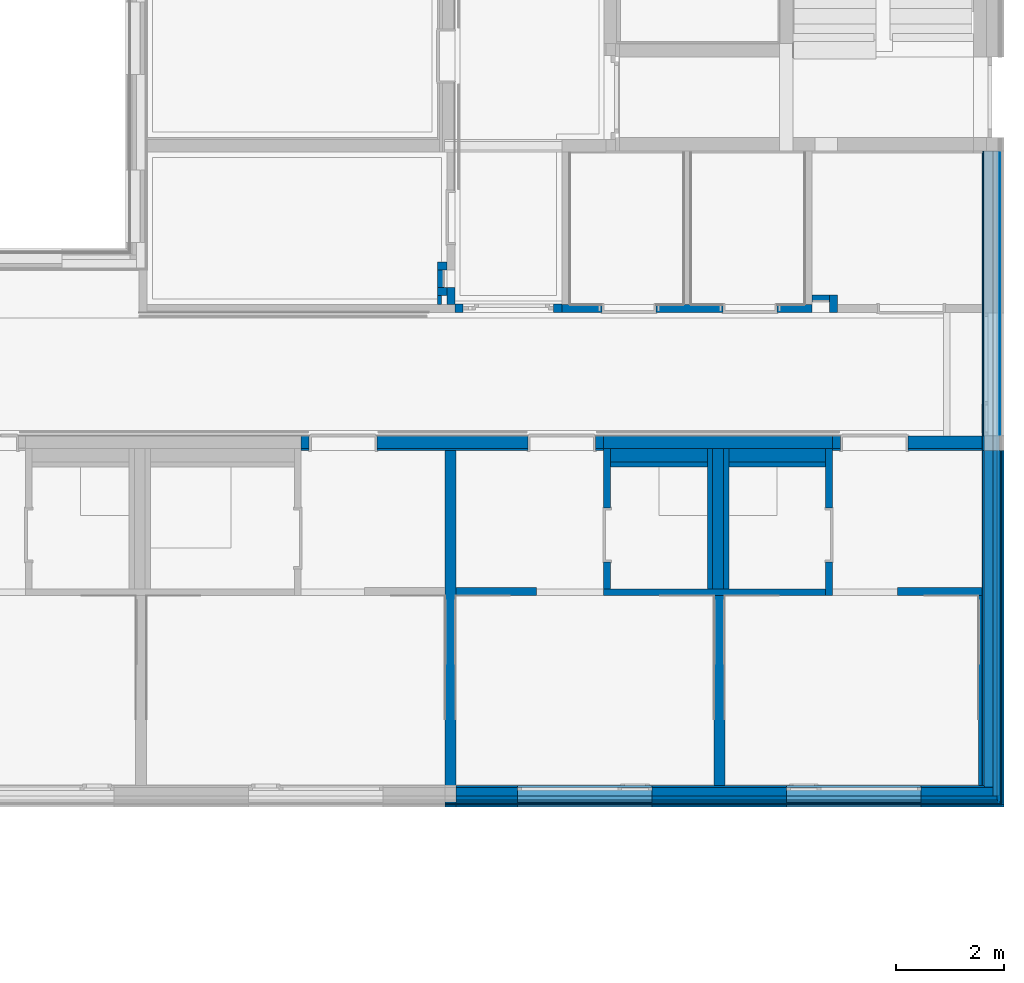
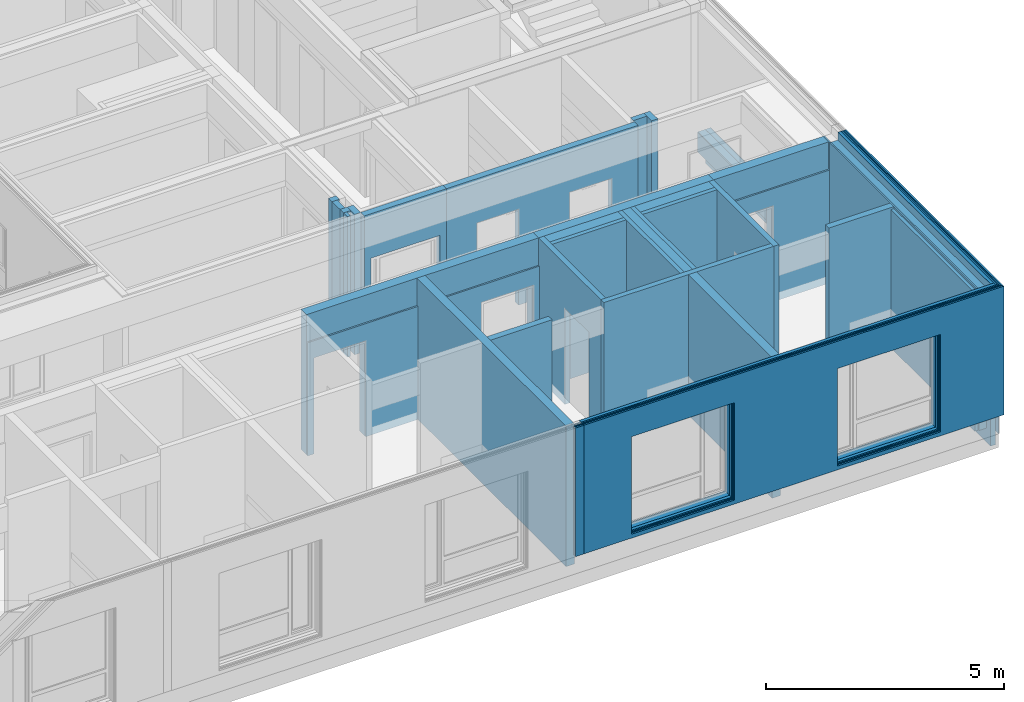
# One storey, part 54 of 207: 51 walls, 25 openings.
"""IFC4 building model written with IfcOpenShell, lengths in metres."""

from ifc_helpers import new_model, entity, si_unit, converted_unit, derived_unit, frame, frame_2d, origin, origin_with_axes, place, context, subcontext, project, spatial, polyline, rectangle, outline, extrude, material, element, save


model = new_model("IFC4")

# Units and contexts
model_context = context("Model", 3, precision=1e-05, world=origin())
body_context = subcontext(model_context, "Body", "Model", "MODEL_VIEW")
ifc_project = project(units=[si_unit("LENGTHUNIT", "METRE"), si_unit("AREAUNIT", "SQUARE_METRE"), si_unit("VOLUMEUNIT", "CUBIC_METRE"), si_unit("MASSUNIT", "GRAM", prefix="KILO"), converted_unit("PLANEANGLEUNIT", "DEGREE", entity("IfcPlaneAngleMeasure", 0.0174532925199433), si_unit("PLANEANGLEUNIT", "RADIAN"), dimensions=[0, 0, 0, 0, 0, 0, 0]), derived_unit("THERMALTRANSMITTANCEUNIT", [(si_unit("POWERUNIT", "WATT"), 1), (si_unit("THERMODYNAMICTEMPERATUREUNIT", "KELVIN"), -1), (si_unit("LENGTHUNIT", "METRE"), -2)]), derived_unit("VOLUMETRICFLOWRATEUNIT", [(si_unit("LENGTHUNIT", "METRE"), 3), (converted_unit("TIMEUNIT", "hour", entity("IfcTimeMeasure", 3600.0), si_unit("TIMEUNIT", "SECOND"), dimensions=[0, 0, 1, 0, 0, 0, 0]), -1), (si_unit("LENGTHUNIT", "METRE"), -1)])], contexts=[model_context])

# Site, building, storey
site_placement = place(None, origin())
site = spatial("IfcSite", under=ifc_project, at=site_placement, Name="Psychiatrie Neubau Wunstorf", CompositionType="ELEMENT")
building_placement = place(site_placement, origin())
building = spatial("IfcBuilding", under=site, at=building_placement, Name="Neubau H2 Stationsgebäude", CompositionType="ELEMENT")
storey_placement = place(building_placement, frame((0.0, 0.0, -0.2)))
storey = spatial("IfcBuildingStorey", under=building, at=storey_placement, Name="H2 Ebene 0", CompositionType="ELEMENT", Elevation=-0.2)

# Walls
ifc_material_1 = material(Name="WA-LB")
wall_1_placement = place(storey_placement, frame((105.889, 5.33250000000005, 0.5), z_axis=(0.0, 0.0, 1.0), x_axis=(0.0, -1.0, 0.0)))
element("IfcWall", 1, at=wall_1_placement, inside=storey, material=ifc_material_1, context=body_context, shape_type="SweptSolid", body=[
    extrude(rectangle(XDim=0.272, YDim=0.036, at=frame_2d((0.136, 0.018), x_axis=(1.0, 0.0))), origin_with_axes(), (0.0, 0.0, 1.0), 3.1),
])
ifc_material_2 = material(Name="WA-KL")
wall_2_placement = place(storey_placement, frame((96.1, -1.47599999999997, 0.5), z_axis=(0.0, 0.0, 1.0), x_axis=(-1.0, 0.0, 0.0)))
element("IfcWall", 2, at=wall_2_placement, inside=storey, material=ifc_material_2, context=body_context, shape_type="SweptSolid", body=[
    extrude(rectangle(XDim=0.2, YDim=0.024, at=frame_2d((0.1, 0.012), x_axis=(1.0, 0.0))), origin_with_axes(), (0.0, 0.0, 1.0), 3.3),
])
ifc_material_3 = material(Name="WA-TL")
wall_3_placement = place(storey_placement, frame((96.1, -1.49999999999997, 0.5), z_axis=(0.0, 0.0, 1.0), x_axis=(-1.0, 0.0, 0.0)))
element("IfcWall", 3, at=wall_3_placement, inside=storey, material=ifc_material_3, context=body_context, shape_type="SweptSolid", body=[
    extrude(rectangle(XDim=0.2, YDim=0.024, at=frame_2d((0.1, 0.012), x_axis=(1.0, 0.0))), origin_with_axes(), (0.0, 0.0, 1.0), 3.3),
])
ifc_material_4 = material(Name="WA-HS")
wall_4_placement = place(storey_placement, frame((96.1, -1.52399999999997, 0.5), z_axis=(0.0, 0.0, 1.0), x_axis=(-1.0, 0.0, 0.0)))
element("IfcWall", 4, at=wall_4_placement, inside=storey, material=ifc_material_4, context=body_context, shape_type="SweptSolid", body=[
    extrude(rectangle(XDim=0.2, YDim=0.042, at=frame_2d((0.1, 0.021), x_axis=(1.0, 0.0))), origin_with_axes(), (0.0, 0.0, 1.0), 3.3),
])

# Wall, openings
ifc_material_5 = material(Name="WA-LB")
wall_5_placement = place(storey_placement, frame((105.925, -1.16399999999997, 0.5), z_axis=(0.0, 0.0, 1.0), x_axis=(-1.0, 0.0, 0.0)))
wall_5 = element("IfcWall", 5, at=wall_5_placement, inside=storey, material=ifc_material_5, context=body_context, shape_type="SweptSolid", body=[
    extrude(rectangle(XDim=9.82500000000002, YDim=0.036, at=frame_2d((4.91250000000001, 0.018), x_axis=(1.0, 0.0))), origin_with_axes(), (0.0, 0.0, 1.0), 3.1),
])
opening_1_placement = place(wall_5_placement, frame((6.17499995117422, 0.0, 0.1), z_axis=(0.0, 1.0, 0.0), x_axis=(0.0, 0.0, 1.0)))
element("IfcOpeningElement", 6, at=opening_1_placement, cuts=wall_5, Name="Fensteröffnung", ObjectType="Opening", context=body_context, shape_type="SweptSolid", body=[
    extrude(outline(polyline([(2.5, 2.5), (2.5, 0.0), (0.0, 0.0), (0.0, 2.5), (2.5, 2.5)])), origin_with_axes(), (0.0, 0.0, 1.0), 0.036),
])
opening_2_placement = place(wall_5_placement, frame((1.17499995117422, 0.0, 0.1), z_axis=(0.0, 1.0, 0.0), x_axis=(0.0, 0.0, 1.0)))
element("IfcOpeningElement", 7, at=opening_2_placement, cuts=wall_5, Name="Fensteröffnung", ObjectType="Opening", context=body_context, shape_type="SweptSolid", body=[
    extrude(outline(polyline([(2.5, 2.5), (2.5, 0.0), (0.0, 0.0), (0.0, 2.5), (2.5, 2.5)])), origin_with_axes(), (0.0, 0.0, 1.0), 0.036),
])

ifc_material_6 = material(Name="WA-HD")
wall_6_placement = place(storey_placement, frame((106.085, -1.19999999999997, 0.5), z_axis=(0.0, 0.0, 1.0), x_axis=(-1.0, 0.0, 0.0)))
wall_6 = element("IfcWall", 8, at=wall_6_placement, inside=storey, material=ifc_material_6, context=body_context, shape_type="SweptSolid", body=[
    extrude(rectangle(XDim=9.98500000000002, YDim=0.16, at=frame_2d((4.99250000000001, 0.08), x_axis=(1.0, 0.0))), origin_with_axes(), (0.0, 0.0, 1.0), 3.1),
])
opening_3_placement = place(wall_6_placement, frame((6.33499995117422, 0.0, 0.1), z_axis=(0.0, 1.0, 0.0), x_axis=(0.0, 0.0, 1.0)))
element("IfcOpeningElement", 9, at=opening_3_placement, cuts=wall_6, Name="Fensteröffnung", ObjectType="Opening", context=body_context, shape_type="SweptSolid", body=[
    extrude(outline(polyline([(2.5, 2.5), (2.5, 0.0), (0.0, 0.0), (0.0, 2.5), (2.5, 2.5)])), origin_with_axes(), (0.0, 0.0, 1.0), 0.16),
])
opening_4_placement = place(wall_6_placement, frame((1.33499995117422, 0.0, 0.1), z_axis=(0.0, 1.0, 0.0), x_axis=(0.0, 0.0, 1.0)))
element("IfcOpeningElement", 10, at=opening_4_placement, cuts=wall_6, Name="Fensteröffnung", ObjectType="Opening", context=body_context, shape_type="SweptSolid", body=[
    extrude(outline(polyline([(2.5, 2.5), (2.5, 0.0), (0.0, 0.0), (0.0, 2.5), (2.5, 2.5)])), origin_with_axes(), (0.0, 0.0, 1.0), 0.16),
])

ifc_material_7 = material(Name="WA-DL")
wall_7_placement = place(storey_placement, frame((106.165, -1.35999999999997, 0.5), z_axis=(0.0, 0.0, 1.0), x_axis=(-1.0, 0.0, 0.0)))
wall_7 = element("IfcWall", 11, at=wall_7_placement, inside=storey, material=ifc_material_7, context=body_context, shape_type="SweptSolid", body=[
    extrude(rectangle(XDim=10.065, YDim=0.08, at=frame_2d((5.03250000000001, 0.04), x_axis=(1.0, 0.0))), origin_with_axes(), (0.0, 0.0, 1.0), 3.3),
])
opening_5_placement = place(wall_7_placement, frame((1.41499995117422, 0.0, 0.1), z_axis=(0.0, 1.0, 0.0), x_axis=(0.0, 0.0, 1.0)))
element("IfcOpeningElement", 12, at=opening_5_placement, cuts=wall_7, Name="Fensteröffnung", ObjectType="Opening", context=body_context, shape_type="SweptSolid", body=[
    extrude(outline(polyline([(2.5, 2.5), (2.5, 0.0), (0.0, 0.0), (0.0, 2.5), (2.5, 2.5)])), origin_with_axes(), (0.0, 0.0, 1.0), 0.08),
])
opening_6_placement = place(wall_7_placement, frame((6.41499995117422, 0.0, 0.1), z_axis=(0.0, 1.0, 0.0), x_axis=(0.0, 0.0, 1.0)))
element("IfcOpeningElement", 13, at=opening_6_placement, cuts=wall_7, Name="Fensteröffnung", ObjectType="Opening", context=body_context, shape_type="SweptSolid", body=[
    extrude(outline(polyline([(2.5, 2.5), (2.5, 0.0), (0.0, 0.0), (0.0, 2.5), (2.5, 2.5)])), origin_with_axes(), (0.0, 0.0, 1.0), 0.08),
])

ifc_material_8 = material(Name="WA-TP")
wall_8_placement = place(storey_placement, frame((106.201, -1.43999999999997, 0.5), z_axis=(0.0, 0.0, 1.0), x_axis=(-1.0, 0.0, 0.0)))
wall_8 = element("IfcWall", 14, at=wall_8_placement, inside=storey, material=ifc_material_8, context=body_context, shape_type="SweptSolid", body=[
    extrude(rectangle(XDim=10.101, YDim=0.036, at=frame_2d((5.05050000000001, 0.018), x_axis=(1.0, 0.0))), origin_with_axes(), (0.0, 0.0, 1.0), 3.3),
])
opening_7_placement = place(wall_8_placement, frame((1.45099995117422, 0.0, 0.1), z_axis=(0.0, 1.0, 0.0), x_axis=(0.0, 0.0, 1.0)))
element("IfcOpeningElement", 15, at=opening_7_placement, cuts=wall_8, Name="Fensteröffnung", ObjectType="Opening", context=body_context, shape_type="SweptSolid", body=[
    extrude(outline(polyline([(2.5, 2.5), (2.5, 0.0), (0.0, 0.0), (0.0, 2.5), (2.5, 2.5)])), origin_with_axes(), (0.0, 0.0, 1.0), 0.036),
])
opening_8_placement = place(wall_8_placement, frame((6.45099995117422, 0.0, 0.1), z_axis=(0.0, 1.0, 0.0), x_axis=(0.0, 0.0, 1.0)))
element("IfcOpeningElement", 16, at=opening_8_placement, cuts=wall_8, Name="Fensteröffnung", ObjectType="Opening", context=body_context, shape_type="SweptSolid", body=[
    extrude(outline(polyline([(2.5, 2.5), (2.5, 0.0), (0.0, 0.0), (0.0, 2.5), (2.5, 2.5)])), origin_with_axes(), (0.0, 0.0, 1.0), 0.036),
])

ifc_material_9 = material(Name="WA-KL")
wall_9_placement = place(storey_placement, frame((106.225, -1.47599999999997, 0.5), z_axis=(0.0, 0.0, 1.0), x_axis=(-1.0, 0.0, 0.0)))
wall_9 = element("IfcWall", 17, at=wall_9_placement, inside=storey, material=ifc_material_9, context=body_context, shape_type="SweptSolid", body=[
    extrude(rectangle(XDim=10.125, YDim=0.024, at=frame_2d((5.06250000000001, 0.012), x_axis=(1.0, 0.0))), origin_with_axes(), (0.0, 0.0, 1.0), 3.3),
])
opening_9_placement = place(wall_9_placement, frame((1.47499995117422, 0.0, 0.1), z_axis=(0.0, 1.0, 0.0), x_axis=(0.0, 0.0, 1.0)))
element("IfcOpeningElement", 18, at=opening_9_placement, cuts=wall_9, Name="Fensteröffnung", ObjectType="Opening", context=body_context, shape_type="SweptSolid", body=[
    extrude(outline(polyline([(2.5, 2.5), (2.5, 0.0), (0.0, 0.0), (0.0, 2.5), (2.5, 2.5)])), origin_with_axes(), (0.0, 0.0, 1.0), 0.024),
])
opening_10_placement = place(wall_9_placement, frame((6.47499995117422, 0.0, 0.1), z_axis=(0.0, 1.0, 0.0), x_axis=(0.0, 0.0, 1.0)))
element("IfcOpeningElement", 19, at=opening_10_placement, cuts=wall_9, Name="Fensteröffnung", ObjectType="Opening", context=body_context, shape_type="SweptSolid", body=[
    extrude(outline(polyline([(2.5, 2.5), (2.5, 0.0), (0.0, 0.0), (0.0, 2.5), (2.5, 2.5)])), origin_with_axes(), (0.0, 0.0, 1.0), 0.024),
])

ifc_material_10 = material(Name="WA-TL")
wall_10_placement = place(storey_placement, frame((106.249, -1.49999999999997, 0.5), z_axis=(0.0, 0.0, 1.0), x_axis=(-1.0, 0.0, 0.0)))
wall_10 = element("IfcWall", 20, at=wall_10_placement, inside=storey, material=ifc_material_10, context=body_context, shape_type="SweptSolid", body=[
    extrude(rectangle(XDim=10.149, YDim=0.024, at=frame_2d((5.07450000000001, 0.012), x_axis=(1.0, 0.0))), origin_with_axes(), (0.0, 0.0, 1.0), 3.3),
])
opening_11_placement = place(wall_10_placement, frame((6.49899995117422, 0.0, 0.1), z_axis=(0.0, 1.0, 0.0), x_axis=(0.0, 0.0, 1.0)))
element("IfcOpeningElement", 21, at=opening_11_placement, cuts=wall_10, Name="Fensteröffnung", ObjectType="Opening", context=body_context, shape_type="SweptSolid", body=[
    extrude(outline(polyline([(2.5, 2.5), (2.5, 0.0), (0.0, 0.0), (0.0, 2.5), (2.5, 2.5)])), origin_with_axes(), (0.0, 0.0, 1.0), 0.024),
])
opening_12_placement = place(wall_10_placement, frame((1.49899995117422, 0.0, 0.1), z_axis=(0.0, 1.0, 0.0), x_axis=(0.0, 0.0, 1.0)))
element("IfcOpeningElement", 22, at=opening_12_placement, cuts=wall_10, Name="Fensteröffnung", ObjectType="Opening", context=body_context, shape_type="SweptSolid", body=[
    extrude(outline(polyline([(2.5, 2.5), (2.5, 0.0), (0.0, 0.0), (0.0, 2.5), (2.5, 2.5)])), origin_with_axes(), (0.0, 0.0, 1.0), 0.024),
])

ifc_material_11 = material(Name="WA-HS")
wall_11_placement = place(storey_placement, frame((106.291, -1.52399999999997, 0.5), z_axis=(0.0, 0.0, 1.0), x_axis=(-1.0, 0.0, 0.0)))
wall_11 = element("IfcWall", 23, at=wall_11_placement, inside=storey, material=ifc_material_11, context=body_context, shape_type="SweptSolid", body=[
    extrude(rectangle(XDim=10.191, YDim=0.042, at=frame_2d((5.09550000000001, 0.021), x_axis=(1.0, 0.0))), origin_with_axes(), (0.0, 0.0, 1.0), 3.3),
])
opening_13_placement = place(wall_11_placement, frame((6.54099995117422, 0.0, 0.1), z_axis=(0.0, 1.0, 0.0), x_axis=(0.0, 0.0, 1.0)))
element("IfcOpeningElement", 24, at=opening_13_placement, cuts=wall_11, Name="Fensteröffnung", ObjectType="Opening", context=body_context, shape_type="SweptSolid", body=[
    extrude(outline(polyline([(2.5, 2.5), (2.5, 0.0), (0.0, 0.0), (0.0, 2.5), (2.5, 2.5)])), origin_with_axes(), (0.0, 0.0, 1.0), 0.042),
])
opening_14_placement = place(wall_11_placement, frame((1.54099995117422, 0.0, 0.1), z_axis=(0.0, 1.0, 0.0), x_axis=(0.0, 0.0, 1.0)))
element("IfcOpeningElement", 25, at=opening_14_placement, cuts=wall_11, Name="Fensteröffnung", ObjectType="Opening", context=body_context, shape_type="SweptSolid", body=[
    extrude(outline(polyline([(2.5, 2.5), (2.5, 0.0), (0.0, 0.0), (0.0, 2.5), (2.5, 2.5)])), origin_with_axes(), (0.0, 0.0, 1.0), 0.042),
])

# Walls
ifc_material_12 = material(Name="WA-LB")
wall_12_placement = place(storey_placement, frame((105.889, 5.06050000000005, 0.5), z_axis=(0.0, 0.0, 1.0), x_axis=(0.0, -1.0, 0.0)))
element("IfcWall", 26, at=wall_12_placement, inside=storey, material=ifc_material_12, context=body_context, shape_type="SweptSolid", body=[
    extrude(rectangle(XDim=6.22450000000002, YDim=0.036, at=frame_2d((3.11225000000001, 0.018), x_axis=(1.0, 0.0))), origin_with_axes(), (0.0, 0.0, 1.0), 3.1),
])
ifc_material_13 = material(Name="WA-HD")
wall_13_placement = place(storey_placement, frame((105.925, 5.06050000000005, 0.5), z_axis=(0.0, 0.0, 1.0), x_axis=(0.0, -1.0, 0.0)))
element("IfcWall", 27, at=wall_13_placement, inside=storey, material=ifc_material_13, context=body_context, shape_type="SweptSolid", body=[
    extrude(rectangle(XDim=6.26050000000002, YDim=0.16, at=frame_2d((3.13025000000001, 0.08), x_axis=(1.0, 0.0))), origin_with_axes(), (0.0, 0.0, 1.0), 3.1),
])
ifc_material_14 = material(Name="WA-DL")
wall_14_placement = place(storey_placement, frame((106.085, 5.06050000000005, 0.5), z_axis=(0.0, 0.0, 1.0), x_axis=(0.0, -1.0, 0.0)))
element("IfcWall", 28, at=wall_14_placement, inside=storey, material=ifc_material_14, context=body_context, shape_type="SweptSolid", body=[
    extrude(rectangle(XDim=6.42050000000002, YDim=0.08, at=frame_2d((3.21025000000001, 0.04), x_axis=(1.0, 0.0))), origin_with_axes(), (0.0, 0.0, 1.0), 3.3),
])
ifc_material_15 = material(Name="WA-TP")
wall_15_placement = place(storey_placement, frame((106.165, 5.06050000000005, 0.5), z_axis=(0.0, 0.0, 1.0), x_axis=(0.0, -1.0, 0.0)))
element("IfcWall", 29, at=wall_15_placement, inside=storey, material=ifc_material_15, context=body_context, shape_type="SweptSolid", body=[
    extrude(rectangle(XDim=6.50050000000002, YDim=0.036, at=frame_2d((3.25025000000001, 0.018), x_axis=(1.0, 0.0))), origin_with_axes(), (0.0, 0.0, 1.0), 3.3),
])
ifc_material_16 = material(Name="WA-KL")
wall_16_placement = place(storey_placement, frame((106.201, 5.06050000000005, 0.5), z_axis=(0.0, 0.0, 1.0), x_axis=(0.0, -1.0, 0.0)))
element("IfcWall", 30, at=wall_16_placement, inside=storey, material=ifc_material_16, context=body_context, shape_type="SweptSolid", body=[
    extrude(rectangle(XDim=6.53650000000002, YDim=0.024, at=frame_2d((3.26825000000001, 0.012), x_axis=(1.0, 0.0))), origin_with_axes(), (0.0, 0.0, 1.0), 3.3),
])
ifc_material_17 = material(Name="WA-TL")
wall_17_placement = place(storey_placement, frame((106.225, 5.06050000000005, 0.5), z_axis=(0.0, 0.0, 1.0), x_axis=(0.0, -1.0, 0.0)))
element("IfcWall", 31, at=wall_17_placement, inside=storey, material=ifc_material_17, context=body_context, shape_type="SweptSolid", body=[
    extrude(rectangle(XDim=6.56050000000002, YDim=0.024, at=frame_2d((3.28025000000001, 0.012), x_axis=(1.0, 0.0))), origin_with_axes(), (0.0, 0.0, 1.0), 3.3),
])
ifc_material_18 = material(Name="WA-HS")
wall_18_placement = place(storey_placement, frame((106.249, 5.06050000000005, 0.5), z_axis=(0.0, 0.0, 1.0), x_axis=(0.0, -1.0, 0.0)))
element("IfcWall", 32, at=wall_18_placement, inside=storey, material=ifc_material_18, context=body_context, shape_type="SweptSolid", body=[
    extrude(rectangle(XDim=6.58450000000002, YDim=0.042, at=frame_2d((3.29225000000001, 0.021), x_axis=(1.0, 0.0))), origin_with_axes(), (0.0, 0.0, 1.0), 3.3),
])
ifc_material_19 = material(Name="WA-LB")
wall_19_placement = place(storey_placement, frame((105.889, 10.6249998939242, 0.0), z_axis=(0.0, 0.0, 1.0), x_axis=(0.0, -1.0, 0.0)))
element("IfcWall", 33, at=wall_19_placement, inside=storey, material=ifc_material_19, context=body_context, shape_type="SweptSolid", body=[
    extrude(rectangle(XDim=11.7889998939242, YDim=0.021, at=frame_2d((5.89449994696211, 0.0105), x_axis=(1.0, 0.0))), origin_with_axes(), (0.0, 0.0, 1.0), 0.5),
])
ifc_material_20 = material(Name="WA-STB")
wall_20_placement = place(storey_placement, frame((105.91, 10.6249998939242, 0.0), z_axis=(0.0, 0.0, 1.0), x_axis=(0.0, -1.0, 0.0)))
element("IfcWall", 34, at=wall_20_placement, inside=storey, material=ifc_material_20, context=body_context, shape_type="SweptSolid", body=[
    extrude(rectangle(XDim=11.8099998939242, YDim=0.175, at=frame_2d((5.90499994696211, 0.0875), x_axis=(1.0, 0.0))), origin_with_axes(), (0.0, 0.0, 1.0), 0.5),
])
ifc_material_21 = material(Name="WA-DE")
wall_21_placement = place(storey_placement, frame((106.085, 10.6249998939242, -0.36), z_axis=(0.0, 0.0, 1.0), x_axis=(0.0, -1.0, 0.0)))
element("IfcWall", 35, at=wall_21_placement, inside=storey, material=ifc_material_21, context=body_context, shape_type="SweptSolid", body=[
    extrude(rectangle(XDim=11.9849998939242, YDim=0.12, at=frame_2d((5.99249994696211, 0.06), x_axis=(1.0, 0.0))), origin_with_axes(), (0.0, 0.0, 1.0), 0.86),
])
ifc_material_22 = material(Name="WA-LB")
wall_22_placement = place(storey_placement, frame((106.205, 10.6249998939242, 0.0), z_axis=(0.0, 0.0, 1.0), x_axis=(0.0, -1.0, 0.0)))
element("IfcWall", 36, at=wall_22_placement, inside=storey, material=ifc_material_22, context=body_context, shape_type="SweptSolid", body=[
    extrude(rectangle(XDim=12.1049998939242, YDim=0.015, at=frame_2d((6.05249994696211, 0.0075), x_axis=(1.0, 0.0))), origin_with_axes(), (0.0, 0.0, 1.0), 0.5),
])

# Wall, openings
ifc_material_23 = material(Name="WI-LB")
wall_23_placement = place(storey_placement, frame((98.075, 7.62499989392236, 0.0)))
wall_23 = element("IfcWall", 37, at=wall_23_placement, inside=storey, material=ifc_material_23, context=body_context, shape_type="SweptSolid", body=[
    extrude(rectangle(XDim=4.65, YDim=0.15, at=frame_2d((2.325, 0.075), x_axis=(1.0, 0.0))), origin_with_axes(), (0.0, 0.0, 1.0), 3.6),
])
opening_15_placement = place(wall_23_placement, frame((4.0, 0.15, 0.0), z_axis=(0.0, -1.0, 0.0), x_axis=(0.0, 0.0, 1.0)))
element("IfcOpeningElement", 38, at=opening_15_placement, cuts=wall_23, Name="Türöffnung", ObjectType="Opening", context=body_context, shape_type="SweptSolid", body=[
    extrude(outline(polyline([(2.46, 1.01), (2.46, 0.0), (0.0, 0.0), (0.0, 1.01), (2.46, 1.01)])), origin_with_axes(), (0.0, 0.0, 1.0), 0.15),
])
opening_16_placement = place(wall_23_placement, frame((1.75, 0.15, 0.0), z_axis=(0.0, -1.0, 0.0), x_axis=(0.0, 0.0, 1.0)))
element("IfcOpeningElement", 39, at=opening_16_placement, cuts=wall_23, Name="Türöffnung", ObjectType="Opening", context=body_context, shape_type="SweptSolid", body=[
    extrude(outline(polyline([(2.46, 1.01), (2.46, 0.0), (0.0, 0.0), (0.0, 1.01), (2.46, 1.01)])), origin_with_axes(), (0.0, 0.0, 1.0), 0.15),
])

# Wall
ifc_material_24 = material(Name="WI-LB")
wall_24_placement = place(storey_placement, frame((102.975, 2.4855, 0.0), z_axis=(0.0, 0.0, 1.0), x_axis=(-1.0, 0.0, 0.0)))
element("IfcWall", 40, at=wall_24_placement, inside=storey, material=ifc_material_24, context=body_context, shape_type="SweptSolid", body=[
    extrude(rectangle(XDim=4.125, YDim=0.125, at=frame_2d((2.0625, 0.0625), x_axis=(1.0, 0.0))), origin_with_axes(), (0.0, 0.0, 1.0), 3.6),
])

# Wall, opening
ifc_material_25 = material(Name="WI-LB")
wall_25_placement = place(storey_placement, frame((98.85, 5.1005, 0.0), z_axis=(0.0, 0.0, 1.0), x_axis=(0.0, -1.0, 0.0)))
wall_25 = element("IfcWall", 41, at=wall_25_placement, inside=storey, material=ifc_material_25, context=body_context, shape_type="SweptSolid", body=[
    extrude(rectangle(XDim=2.615, YDim=0.125, at=frame_2d((1.3075, 0.0625), x_axis=(1.0, 0.0))), origin_with_axes(), (0.0, 0.0, 1.0), 3.6),
])
opening_17_placement = place(wall_25_placement, frame((2.115, 0.125, 0.0), z_axis=(0.0, -1.0, 0.0), x_axis=(0.0, 0.0, 1.0)))
element("IfcOpeningElement", 42, at=opening_17_placement, cuts=wall_25, Name="Türöffnung", ObjectType="Opening", context=body_context, shape_type="SweptSolid", body=[
    extrude(outline(polyline([(2.46, 1.01), (2.46, 0.0), (0.0, 0.0), (0.0, 1.01), (2.46, 1.01)])), origin_with_axes(), (0.0, 0.0, 1.0), 0.125),
])

# Walls
ifc_material_26 = material(Name="WI-LB")
wall_26_placement = place(storey_placement, frame((95.9, 5.1005, 0.0), z_axis=(0.0, 0.0, 1.0), x_axis=(0.0, -1.0, 0.0)))
element("IfcWall", 43, at=wall_26_placement, inside=storey, material=ifc_material_26, context=body_context, shape_type="SweptSolid", body=[
    extrude(rectangle(XDim=6.2645, YDim=0.2, at=frame_2d((3.13225, 0.1), x_axis=(1.0, 0.0))), origin_with_axes(), (0.0, 0.0, 1.0), 3.6),
])
ifc_material_27 = material(Name="WI-LB")
wall_27_placement = place(storey_placement, frame((100.9, 2.3605, 0.0), z_axis=(0.0, 0.0, 1.0), x_axis=(0.0, -1.0, 0.0)))
element("IfcWall", 44, at=wall_27_placement, inside=storey, material=ifc_material_27, context=body_context, shape_type="SweptSolid", body=[
    extrude(rectangle(XDim=3.5245, YDim=0.2, at=frame_2d((1.76225, 0.1), x_axis=(1.0, 0.0))), origin_with_axes(), (0.0, 0.0, 1.0), 3.6),
])
ifc_material_28 = material(Name="WI-LB")
wall_28_placement = place(storey_placement, frame((97.6, 2.51050000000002, 0.0), z_axis=(0.0, 0.0, 1.0), x_axis=(-1.0, 0.0, 0.0)))
element("IfcWall", 45, at=wall_28_placement, inside=storey, material=ifc_material_28, context=body_context, shape_type="SweptSolid", body=[
    extrude(rectangle(XDim=1.5, YDim=0.15, at=frame_2d((0.75, 0.075), x_axis=(1.0, 0.0))), origin_with_axes(), (0.0, 0.0, 1.0), 3.6),
])
ifc_material_29 = material(Name="WI-LB")
wall_29_placement = place(storey_placement, frame((105.889, 2.5105, 0.0), z_axis=(0.0, 0.0, 1.0), x_axis=(-1.0, 0.0, 0.0)))
element("IfcWall", 46, at=wall_29_placement, inside=storey, material=ifc_material_29, context=body_context, shape_type="SweptSolid", body=[
    extrude(rectangle(XDim=1.57499999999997, YDim=0.15, at=frame_2d((0.787499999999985, 0.075), x_axis=(1.0, 0.0))), origin_with_axes(), (0.0, 0.0, 1.0), 3.6),
])
ifc_material_30 = material(Name="WI-LB")
wall_30_placement = place(storey_placement, frame((102.725, 7.82499989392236, 0.0)))
element("IfcWall", 47, at=wall_30_placement, inside=storey, material=ifc_material_30, context=body_context, shape_type="SweptSolid", body=[
    extrude(rectangle(XDim=0.325, YDim=0.125, at=frame_2d((0.1625, 0.0625), x_axis=(1.0, 0.0))), origin_with_axes(), (0.0, 0.0, 1.0), 3.6),
])
ifc_material_31 = material(Name="WI-LB")
wall_31_placement = place(storey_placement, frame((103.05, 7.62499989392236, 0.0)))
element("IfcWall", 48, at=wall_31_placement, inside=storey, material=ifc_material_31, context=body_context, shape_type="SweptSolid", body=[
    extrude(rectangle(XDim=0.15, YDim=0.325, at=frame_2d((0.075, 0.1625), x_axis=(1.0, 0.0))), origin_with_axes(), (0.0, 0.0, 1.0), 3.6),
])
ifc_material_32 = material(Name="WI-LB")
wall_32_placement = place(storey_placement, frame((95.7575000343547, 8.41499989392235, 0.0), z_axis=(0.0, 0.0, 1.0), x_axis=(-1.0477020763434e-08, -1.0, 0.0)))
element("IfcWall", 49, at=wall_32_placement, inside=storey, material=ifc_material_32, context=body_context, shape_type="SweptSolid", body=[
    extrude(rectangle(XDim=0.324999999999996, YDim=0.125, at=frame_2d((0.162499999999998, 0.0625), x_axis=(1.0, 0.0))), origin_with_axes(), (0.0, 0.0, 1.0), 3.6),
])
ifc_material_33 = material(Name="WI-LB")
wall_33_placement = place(storey_placement, frame((96.0825000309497, 7.77499989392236, 0.0), z_axis=(0.0, 0.0, 1.0), x_axis=(-9.52462123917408e-09, 1.0, 0.0)))
element("IfcWall", 50, at=wall_33_placement, inside=storey, material=ifc_material_33, context=body_context, shape_type="SweptSolid", body=[
    extrude(rectangle(XDim=0.314999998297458, YDim=0.15, at=frame_2d((0.157499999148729, 0.075), x_axis=(1.0, 0.0))), origin_with_axes(), (0.0, 0.0, 1.0), 3.6),
])

# Wall, openings
ifc_material_34 = material(Name="WI-HW 60")
wall_34_placement = place(storey_placement, frame((98.85, 5.3325, 0.0), z_axis=(0.0, 0.0, 1.0), x_axis=(-1.0, 0.0, 0.0)))
wall_34 = element("IfcWall", 51, at=wall_34_placement, inside=storey, material=ifc_material_34, context=body_context, shape_type="SweptSolid", body=[
    extrude(rectangle(XDim=5.6249999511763, YDim=0.232, at=frame_2d((2.81249997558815, 0.116), x_axis=(1.0, 0.0))), origin_with_axes(), (0.0, 0.0, 1.0), 3.6),
])
opening_18_placement = place(wall_34_placement, frame((4.2149999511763, 0.0, 0.0), z_axis=(0.0, 1.0, 0.0), x_axis=(0.0, 0.0, 1.0)))
element("IfcOpeningElement", 52, at=opening_18_placement, cuts=wall_34, Name="Türöffnung", ObjectType="Opening", context=body_context, shape_type="SweptSolid", body=[
    extrude(outline(polyline([(2.46, 1.26), (2.46, 0.0), (0.0, 0.0), (0.0, 1.26), (2.46, 1.26)])), origin_with_axes(), (0.0, 0.0, 1.0), 0.232),
])
opening_19_placement = place(wall_34_placement, frame((0.149999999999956, 0.0, 0.0), z_axis=(0.0, 1.0, 0.0), x_axis=(0.0, 0.0, 1.0)))
element("IfcOpeningElement", 53, at=opening_19_placement, cuts=wall_34, Name="Türöffnung", ObjectType="Opening", context=body_context, shape_type="SweptSolid", body=[
    extrude(outline(polyline([(2.46, 1.26), (2.46, 0.0), (0.0, 0.0), (0.0, 1.26), (2.46, 1.26)])), origin_with_axes(), (0.0, 0.0, 1.0), 0.232),
])

ifc_material_35 = material(Name="WI-LB")
wall_35_placement = place(storey_placement, frame((98.85, 5.1005, 0.0), z_axis=(0.0, 0.0, 1.0), x_axis=(-1.0, 0.0, 0.0)))
wall_35 = element("IfcWall", 54, at=wall_35_placement, inside=storey, material=ifc_material_35, context=body_context, shape_type="SweptSolid", body=[
    extrude(rectangle(XDim=5.62499995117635, YDim=0.04, at=frame_2d((2.81249997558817, 0.02), x_axis=(1.0, 0.0))), origin_with_axes(), (0.0, 0.0, 1.0), 2.9),
])
opening_20_placement = place(wall_35_placement, frame((4.21499995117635, 0.0, 0.0), z_axis=(0.0, 1.0, 0.0), x_axis=(0.0, 0.0, 1.0)))
element("IfcOpeningElement", 55, at=opening_20_placement, cuts=wall_35, Name="Türöffnung", ObjectType="Opening", context=body_context, shape_type="SweptSolid", body=[
    extrude(outline(polyline([(2.46, 1.26), (2.46, 0.0), (0.0, 0.0), (0.0, 1.26), (2.46, 1.26)])), origin_with_axes(), (0.0, 0.0, 1.0), 0.04),
])
opening_21_placement = place(wall_35_placement, frame((0.15, 0.0, 0.0), z_axis=(0.0, 1.0, 0.0), x_axis=(0.0, 0.0, 1.0)))
element("IfcOpeningElement", 56, at=opening_21_placement, cuts=wall_35, Name="Türöffnung", ObjectType="Opening", context=body_context, shape_type="SweptSolid", body=[
    extrude(outline(polyline([(2.46, 1.26), (2.46, 0.0), (0.0, 0.0), (0.0, 1.26), (2.46, 1.26)])), origin_with_axes(), (0.0, 0.0, 1.0), 0.04),
])

# Walls
ifc_material_36 = material(Name="WI-LB")
wall_36_placement = place(storey_placement, frame((95.9325000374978, 8.56499989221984, 0.0), z_axis=(0.0, 0.0, 1.0), x_axis=(-1.0, 0.0, 0.0)))
element("IfcWall", 57, at=wall_36_placement, inside=storey, material=ifc_material_36, context=body_context, shape_type="SweptSolid", body=[
    extrude(rectangle(XDim=0.175000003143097, YDim=0.15, at=frame_2d((0.0875000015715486, 0.075), x_axis=(1.0, 0.0))), origin_with_axes(), (0.0, 0.0, 1.0), 3.6),
])
ifc_material_37 = material(Name="WI-LB")
wall_37_placement = place(storey_placement, frame((95.7575000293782, 7.93999989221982, 0.0)))
element("IfcWall", 58, at=wall_37_placement, inside=storey, material=ifc_material_37, context=body_context, shape_type="SweptSolid", body=[
    extrude(rectangle(XDim=0.174999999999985, YDim=0.15, at=frame_2d((0.0874999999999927, 0.075), x_axis=(1.0, 0.0))), origin_with_axes(), (0.0, 0.0, 1.0), 3.6),
])
ifc_material_38 = material(Name="WI-LB")
wall_38_placement = place(storey_placement, frame((95.7575000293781, 7.93999989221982, 0.0), z_axis=(0.0, 0.0, 1.0), x_axis=(9.52453729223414e-09, -1.0, 0.0)))
element("IfcWall", 59, at=wall_38_placement, inside=storey, material=ifc_material_38, context=body_context, shape_type="SweptSolid", body=[
    extrude(rectangle(XDim=0.164999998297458, YDim=0.075, at=frame_2d((0.0824999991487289, 0.0375), x_axis=(1.0, 0.0))), origin_with_axes(), (0.0, 0.0, 1.0), 3.6),
])

# Wall, opening
ifc_material_39 = material(Name="WI-LB")
wall_39_placement = place(storey_placement, frame((98.075, 7.77999989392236, 0.0), z_axis=(0.0, 0.0, 1.0), x_axis=(-1.0, 0.0, 0.0)))
wall_39 = element("IfcWall", 60, at=wall_39_placement, inside=storey, material=ifc_material_39, context=body_context, shape_type="SweptSolid", body=[
    extrude(rectangle(XDim=1.99249996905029, YDim=0.155, at=frame_2d((0.996249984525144, 0.0775), x_axis=(1.0, 0.0))), origin_with_axes(), (0.0, 0.0, 1.0), 3.6),
])
opening_22_placement = place(wall_39_placement, frame((1.83749998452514, 0.155, 0.0), z_axis=(0.0, -1.0, 0.0), x_axis=(0.0, 0.0, 1.0)))
element("IfcOpeningElement", 61, at=opening_22_placement, cuts=wall_39, Name="Türöffnung", ObjectType="Opening", context=body_context, shape_type="SweptSolid", body=[
    extrude(outline(polyline([(2.46, 1.6825), (2.46, 0.0), (0.0, 0.0), (0.0, 1.6825), (2.46, 1.6825)])), origin_with_axes(), (0.0, 0.0, 1.0), 0.155),
])

# Walls
ifc_material_40 = material(Name="WI-LB")
wall_40_placement = place(storey_placement, frame((105.814, 2.3605, 0.0), z_axis=(0.0, 0.0, 1.0), x_axis=(0.0, -1.0, 0.0)))
element("IfcWall", 62, at=wall_40_placement, inside=storey, material=ifc_material_40, context=body_context, shape_type="SweptSolid", body=[
    extrude(rectangle(XDim=3.5245, YDim=0.075, at=frame_2d((1.76225, 0.0375), x_axis=(1.0, 0.0))), origin_with_axes(), (0.0, 0.0, 1.0), 3.55),
])
ifc_material_41 = material(Name="WI-IW")
wall_41_placement = place(storey_placement, frame((98.975, 4.7505, 0.0)))
element("IfcWall", 63, at=wall_41_placement, inside=storey, material=ifc_material_41, context=body_context, shape_type="SweptSolid", body=[
    extrude(rectangle(XDim=1.79999999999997, YDim=0.1, at=frame_2d((0.899999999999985, 0.05), x_axis=(1.0, 0.0))), origin_with_axes(), (0.0, 0.0, 1.0), 3.6),
])
ifc_material_42 = material(Name="Installationsraum")
wall_42_placement = place(storey_placement, frame((98.975, 4.8505, 0.0)))
element("IfcWall", 64, at=wall_42_placement, inside=storey, material=ifc_material_42, context=body_context, shape_type="SweptSolid", body=[
    extrude(rectangle(XDim=1.79999999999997, YDim=0.25, at=frame_2d((0.899999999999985, 0.125), x_axis=(1.0, 0.0))), origin_with_axes(), (0.0, 0.0, 1.0), 3.6),
])
ifc_material_43 = material(Name="WI-IW")
wall_43_placement = place(storey_placement, frame((100.775, 5.1005, 0.0), z_axis=(0.0, 0.0, 1.0), x_axis=(0.0, -1.0, 0.0)))
element("IfcWall", 65, at=wall_43_placement, inside=storey, material=ifc_material_43, context=body_context, shape_type="SweptSolid", body=[
    extrude(rectangle(XDim=2.615, YDim=0.1, at=frame_2d((1.3075, 0.05), x_axis=(1.0, 0.0))), origin_with_axes(), (0.0, 0.0, 1.0), 3.6),
])
ifc_material_44 = material(Name="Installationsraum")
wall_44_placement = place(storey_placement, frame((100.875, 5.1005, 0.0), z_axis=(0.0, 0.0, 1.0), x_axis=(0.0, -1.0, 0.0)))
element("IfcWall", 66, at=wall_44_placement, inside=storey, material=ifc_material_44, context=body_context, shape_type="SweptSolid", body=[
    extrude(rectangle(XDim=2.615, YDim=0.2, at=frame_2d((1.3075, 0.1), x_axis=(1.0, 0.0))), origin_with_axes(), (0.0, 0.0, 1.0), 3.6),
])
ifc_material_45 = material(Name="WI-IW")
wall_45_placement = place(storey_placement, frame((101.075, 5.1005, 0.0), z_axis=(0.0, 0.0, 1.0), x_axis=(0.0, -1.0, 0.0)))
element("IfcWall", 67, at=wall_45_placement, inside=storey, material=ifc_material_45, context=body_context, shape_type="SweptSolid", body=[
    extrude(rectangle(XDim=2.615, YDim=0.1, at=frame_2d((1.3075, 0.05), x_axis=(1.0, 0.0))), origin_with_axes(), (0.0, 0.0, 1.0), 3.6),
])

# Wall, opening
ifc_material_46 = material(Name="WI-HW 60")
wall_46_placement = place(storey_placement, frame((105.889, 5.3325, 0.0), z_axis=(0.0, 0.0, 1.0), x_axis=(-1.0, 0.0, 0.0)))
wall_46 = element("IfcWall", 68, at=wall_46_placement, inside=storey, material=ifc_material_46, context=body_context, shape_type="SweptSolid", body=[
    extrude(rectangle(XDim=2.789, YDim=0.232, at=frame_2d((1.3945, 0.116), x_axis=(1.0, 0.0))), origin_with_axes(), (0.0, 0.0, 1.0), 3.6),
])
opening_23_placement = place(wall_46_placement, frame((1.379, 0.0, 0.0), z_axis=(0.0, 1.0, 0.0), x_axis=(0.0, 0.0, 1.0)))
element("IfcOpeningElement", 69, at=opening_23_placement, cuts=wall_46, Name="Türöffnung", ObjectType="Opening", context=body_context, shape_type="SweptSolid", body=[
    extrude(outline(polyline([(2.46, 1.26), (2.46, 0.0), (0.0, 0.0), (0.0, 1.26), (2.46, 1.26)])), origin_with_axes(), (0.0, 0.0, 1.0), 0.232),
])

ifc_material_47 = material(Name="WI-LB")
wall_47_placement = place(storey_placement, frame((105.889, 5.1005, 0.0), z_axis=(0.0, 0.0, 1.0), x_axis=(-1.0, 0.0, 0.0)))
wall_47 = element("IfcWall", 70, at=wall_47_placement, inside=storey, material=ifc_material_47, context=body_context, shape_type="SweptSolid", body=[
    extrude(rectangle(XDim=2.789, YDim=0.04, at=frame_2d((1.3945, 0.02), x_axis=(1.0, 0.0))), origin_with_axes(), (0.0, 0.0, 1.0), 2.9),
])
opening_24_placement = place(wall_47_placement, frame((1.379, 0.0, 0.0), z_axis=(0.0, 1.0, 0.0), x_axis=(0.0, 0.0, 1.0)))
element("IfcOpeningElement", 71, at=opening_24_placement, cuts=wall_47, Name="Türöffnung", ObjectType="Opening", context=body_context, shape_type="SweptSolid", body=[
    extrude(outline(polyline([(2.46, 1.26), (2.46, 0.0), (0.0, 0.0), (0.0, 1.26), (2.46, 1.26)])), origin_with_axes(), (0.0, 0.0, 1.0), 0.04),
])

# Walls
ifc_material_48 = material(Name="WI-IW")
wall_48_placement = place(storey_placement, frame((101.175, 4.7505, 0.0)))
element("IfcWall", 72, at=wall_48_placement, inside=storey, material=ifc_material_48, context=body_context, shape_type="SweptSolid", body=[
    extrude(rectangle(XDim=1.80000000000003, YDim=0.1, at=frame_2d((0.900000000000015, 0.05), x_axis=(1.0, 0.0))), origin_with_axes(), (0.0, 0.0, 1.0), 3.6),
])
ifc_material_49 = material(Name="Installationsraum")
wall_49_placement = place(storey_placement, frame((101.175, 4.8505, 0.0)))
element("IfcWall", 73, at=wall_49_placement, inside=storey, material=ifc_material_49, context=body_context, shape_type="SweptSolid", body=[
    extrude(rectangle(XDim=1.80000000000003, YDim=0.25, at=frame_2d((0.900000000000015, 0.125), x_axis=(1.0, 0.0))), origin_with_axes(), (0.0, 0.0, 1.0), 3.6),
])

# Wall, opening
ifc_material_50 = material(Name="WI-LB")
wall_50_placement = place(storey_placement, frame((102.975, 5.1005, 0.0), z_axis=(0.0, 0.0, 1.0), x_axis=(0.0, -1.0, 0.0)))
wall_50 = element("IfcWall", 74, at=wall_50_placement, inside=storey, material=ifc_material_50, context=body_context, shape_type="SweptSolid", body=[
    extrude(rectangle(XDim=2.74, YDim=0.125, at=frame_2d((1.37, 0.0625), x_axis=(1.0, 0.0))), origin_with_axes(), (0.0, 0.0, 1.0), 3.6),
])
opening_25_placement = place(wall_50_placement, frame((1.105, 0.0, 0.0), z_axis=(0.0, 1.0, 0.0), x_axis=(0.0, 0.0, 1.0)))
element("IfcOpeningElement", 75, at=opening_25_placement, cuts=wall_50, Name="Türöffnung", ObjectType="Opening", context=body_context, shape_type="SweptSolid", body=[
    extrude(outline(polyline([(2.46, 1.01), (2.46, 0.0), (0.0, 0.0), (0.0, 1.01), (2.46, 1.01)])), origin_with_axes(), (0.0, 0.0, 1.0), 0.125),
])

# Wall
ifc_material_51 = material(Name="WI-HW 60")
wall_51_placement = place(storey_placement, frame((103.1, 5.3325, 0.0), z_axis=(0.0, 0.0, 1.0), x_axis=(-1.0, 2.13998753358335e-16, 0.0)))
element("IfcWall", 76, at=wall_51_placement, inside=storey, material=ifc_material_51, context=body_context, shape_type="SweptSolid", body=[
    extrude(rectangle(XDim=4.25000000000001, YDim=0.232, at=frame_2d((2.12500000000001, 0.116), x_axis=(1.0, 0.0))), origin_with_axes(), (0.0, 0.0, 1.0), 3.6),
])

save(model, "model.ifc")
